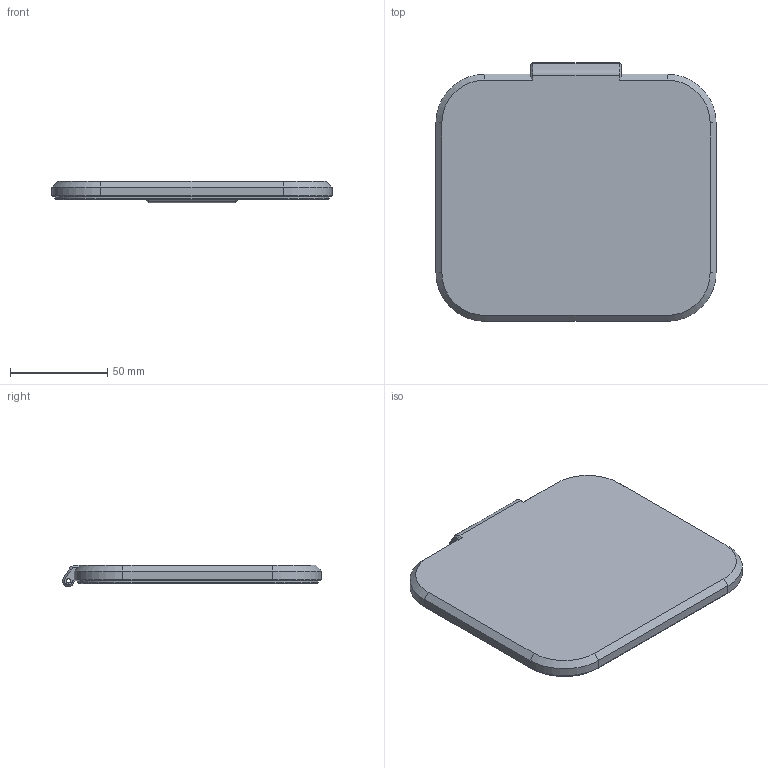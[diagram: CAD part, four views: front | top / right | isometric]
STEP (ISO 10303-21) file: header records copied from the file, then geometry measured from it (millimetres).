
FILE_DESCRIPTION(('HOOPS Exchange Step'),'2;1');
FILE_NAME('/Users/ridzwannormahazan/Library/Containers/com.shapr3d.shapr/Data/tmp/export/temp_export','2026-06-30T21:59:39+09:00',('ridzwannormahazan'),('Shapr3D Limited'),'HOOPS Exchange 2026.3','Shapr3D','Authorized');
FILE_SCHEMA( ('AP242_MANAGED_MODEL_BASED_3D_ENGINEERING_MIM_LF {1 0 10303 442 1 1 4}') );
Length unit declared in the file: millimetre
Products named in the file (2): MAS ver; root
Assembly tree (1 placements, depth 2):
  root
    MAS ver
Bounding box: 144 x 132.99 x 11 mm (x, y, z)
Volume: 49368.6 mm3; surface area: 43185.5 mm2
Topology: 1 solids, 1 shells, 79 faces, 188 edges, 113 vertices
Faces by surface type: plane 42, cone 21, cylinder 16
Full cylindrical faces by diameter (mm): 2.2 x1
Entity records: 2306 total; most frequent: DIRECTION 409, CARTESIAN_POINT 384, ORIENTED_EDGE 376, EDGE_CURVE 188, AXIS2_PLACEMENT_3D 138, VECTOR 133, LINE 133, VERTEX_POINT 113
